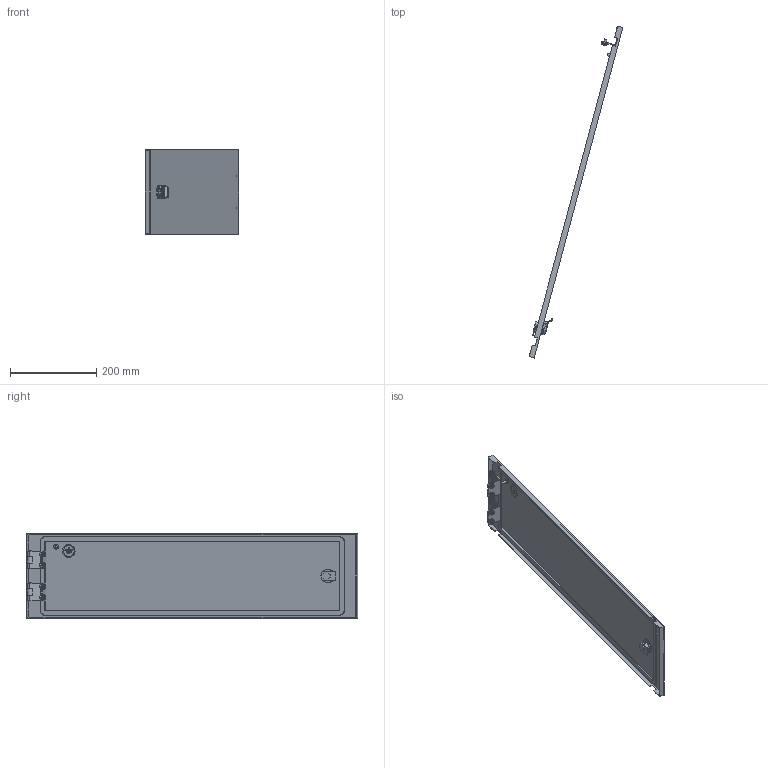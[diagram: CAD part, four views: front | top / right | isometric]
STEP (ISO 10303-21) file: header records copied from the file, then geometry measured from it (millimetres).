
FILE_DESCRIPTION (( 'STEP AP214' ), '1' );
FILE_NAME ('FO-00-ESD-020-080 Äâåðü ñåêöèîííàÿ âíåøíÿÿ 200x800.STEP', '2025-08-20T06:24:59', ( '' ), ( '' ), 'SwSTEP 2.0', 'SolidWorks 2023', '' );
FILE_SCHEMA (( 'AUTOMOTIVE_DESIGN' ));
Length unit declared in the file: millimetre
Products named in the file (4): Дверь секционная внешняя 200х800.STEP; FO-00-ESD-020-080 Дверь секционная внешняя 200x800.STEP; Петля.STEP; FO-00-ESD-020-080 Дверь секционная внешняя 200x800
Assembly tree (4 placements, depth 3):
  FO-00-ESD-020-080 Дверь секционная внешняя 200x800
    FO-00-ESD-020-080 Дверь секционная внешняя 200x800.STEP
      Дверь секционная внешняя 200х800.STEP
      Петля.STEP  x2
Bounding box: 217.64 x 771.19 x 196 mm (x, y, z)
Volume: 453803 mm3; surface area: 388361.5 mm2
Topology: 3 solids, 9 shells, 521 faces, 1332 edges, 861 vertices
Faces by surface type: plane 243, cylinder 204, cone 30, torus 29, bspline 15
Entity records: 14024 total; most frequent: CARTESIAN_POINT 3577, DIRECTION 2175, ORIENTED_EDGE 2154, EDGE_CURVE 1077, AXIS2_PLACEMENT_3D 759, VERTEX_POINT 699, VECTOR 657, LINE 657
